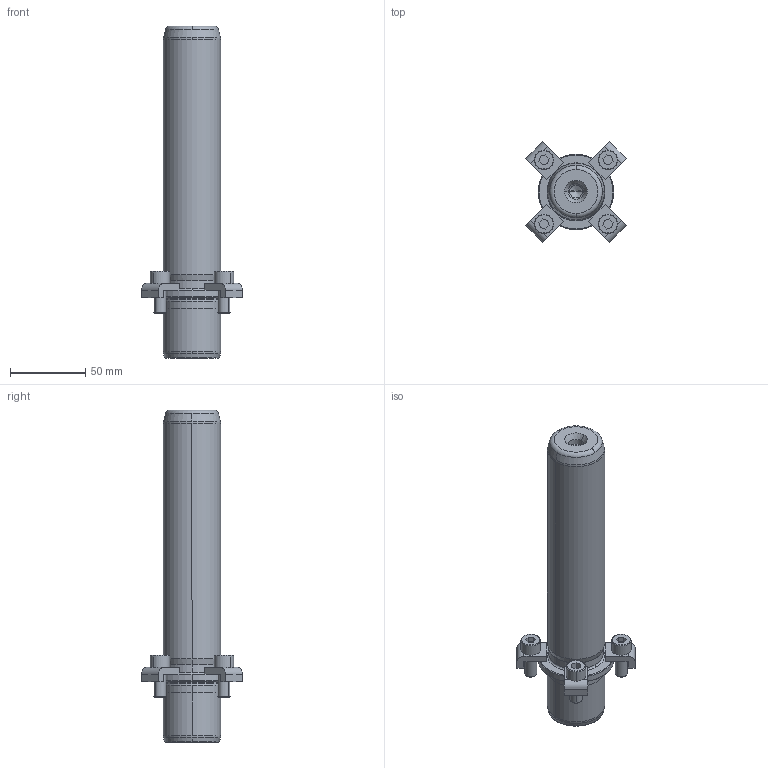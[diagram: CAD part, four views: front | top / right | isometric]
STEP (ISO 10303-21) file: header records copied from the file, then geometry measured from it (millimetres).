
FILE_DESCRIPTION((''),'2;1');
FILE_NAME('P21_038_180.stp','2008-12-23T10:55:29',(''),(''),'Mechanical Desktop 2009','Mechanical Desktop 2009',', , ');
FILE_SCHEMA(('CONFIG_CONTROL_DESIGN'));
Length unit declared in the file: millimetre
Products named in the file (2): Product; blmdl1
Assembly tree (1 placements, depth 2):
  Product
    blmdl1
Bounding box: 66.82 x 66.82 x 220 mm (x, y, z)
Volume: 260435.8 mm3; surface area: 40600.3 mm2
Topology: 9 solids, 9 shells, 195 faces, 477 edges, 309 vertices
Faces by surface type: plane 77, cylinder 52, cone 34, torus 16, bspline 16
Entity records: 6547 total; most frequent: CARTESIAN_POINT 1683, DIRECTION 1078, ORIENTED_EDGE 946, EDGE_CURVE 473, AXIS2_PLACEMENT_3D 424, VERTEX_POINT 309, CIRCLE 243, VECTOR 230
